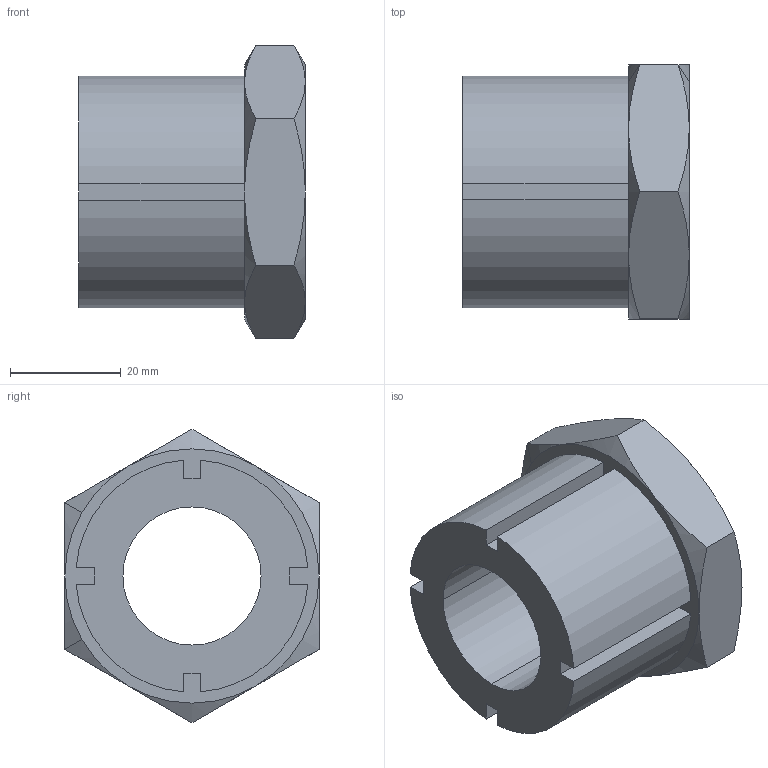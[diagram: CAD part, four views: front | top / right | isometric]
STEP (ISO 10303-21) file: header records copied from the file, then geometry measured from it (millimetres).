
FILE_DESCRIPTION((''),'2;1');
FILE_NAME('C:\WIXROYD\Positioning\3840\3840W025.stp','2003-01-09T15:39:26',('Administrator'),(''),'Autodesk Inventor (tm) 5.0','Autodesk Inventor (tm) 5.0','');
FILE_SCHEMA(('CONFIG_CONTROL_DESIGN'));
Length unit declared in the file: millimetre
Products named in the file (1): 3840W025
Bounding box: 41 x 46 x 53.12 mm (x, y, z)
Volume: 40206.3 mm3; surface area: 12246.6 mm2
Topology: 1 solids, 1 shells, 45 faces, 110 edges, 68 vertices
Faces by surface type: plane 21, cone 16, cylinder 8
Entity records: 1383 total; most frequent: CARTESIAN_POINT 272, ORIENTED_EDGE 220, DIRECTION 210, EDGE_CURVE 110, AXIS2_PLACEMENT_3D 78, VERTEX_POINT 68, VECTOR 54, LINE 54
